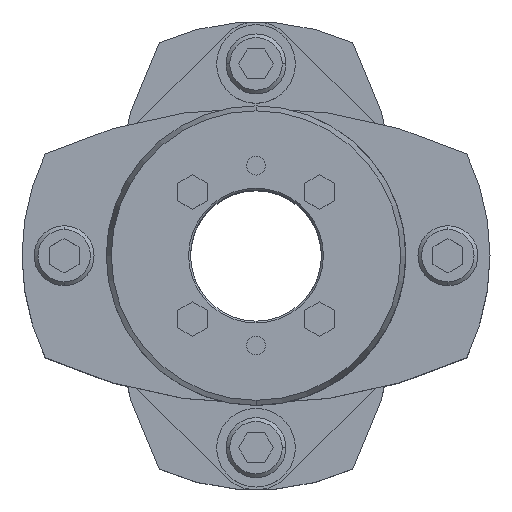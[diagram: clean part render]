
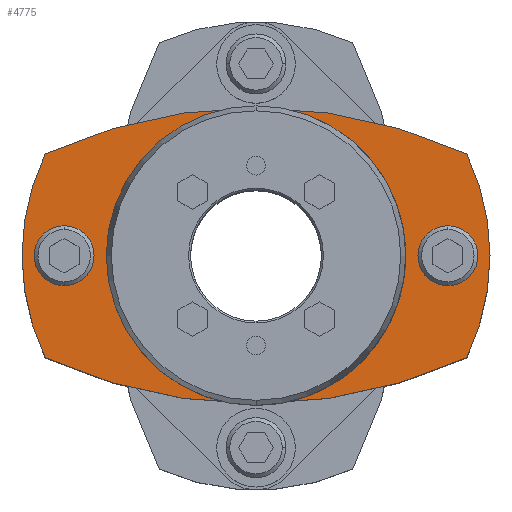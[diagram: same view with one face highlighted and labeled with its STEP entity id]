
A CAD part, top view. The second image highlights one B-rep face of the part: STEP entity #4775.
In plain terms, the highlighted planar face has unit normal (0, 0, 1).
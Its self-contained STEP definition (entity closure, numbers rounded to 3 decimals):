
#2207=CARTESIAN_POINT('',(0.,39.5,35.5));
#2208=VERTEX_POINT('',#2207);
#2224=CARTESIAN_POINT('',(-56.263,27.217,35.5));
#2225=VERTEX_POINT('',#2224);
#2232=CARTESIAN_POINT('',(0.,-95.5,35.5));
#2233=DIRECTION('',(0.0,0.0,-1.0));
#2234=DIRECTION('',(0.0,1.0,0.0));
#2235=AXIS2_PLACEMENT_3D('',#2232,#2233,#2234);
#2236=CIRCLE('',#2235,135.);
#2237=EDGE_CURVE('',#2225,#2208,#2236,.T.);
#2247=CARTESIAN_POINT('',(0.,-39.5,35.5));
#2248=VERTEX_POINT('',#2247);
#2257=CARTESIAN_POINT('',(-56.263,-27.217,35.5));
#2258=VERTEX_POINT('',#2257);
#2259=CARTESIAN_POINT('',(0.,95.5,35.5));
#2260=DIRECTION('',(0.0,0.0,-1.0));
#2261=DIRECTION('',(0.0,1.0,0.0));
#2262=AXIS2_PLACEMENT_3D('',#2259,#2260,#2261);
#2263=CIRCLE('',#2262,135.);
#2264=EDGE_CURVE('',#2248,#2258,#2263,.T.);
#2513=CARTESIAN_POINT('',(0.,29.,35.5));
#2514=VERTEX_POINT('',#2513);
#2564=CARTESIAN_POINT('',(0.,-29.,35.5));
#2565=VERTEX_POINT('',#2564);
#2572=CARTESIAN_POINT('',(0.,0.,35.5));
#2573=DIRECTION('',(0.0,0.0,-1.0));
#2574=DIRECTION('',(0.0,1.0,0.0));
#2575=AXIS2_PLACEMENT_3D('',#2572,#2573,#2574);
#2576=CIRCLE('',#2575,29.0);
#2577=EDGE_CURVE('',#2514,#2565,#2576,.T.);
#2673=CARTESIAN_POINT('',(-51.25,8.,35.5));
#2674=VERTEX_POINT('',#2673);
#2690=CARTESIAN_POINT('',(-51.25,-8.,35.5));
#2691=VERTEX_POINT('',#2690);
#2698=CARTESIAN_POINT('',(-51.25,0.,35.5));
#2699=DIRECTION('',(0.0,0.0,-1.0));
#2700=DIRECTION('',(0.0,1.0,0.0));
#2701=AXIS2_PLACEMENT_3D('',#2698,#2699,#2700);
#2702=CIRCLE('',#2701,8.0);
#2703=EDGE_CURVE('',#2674,#2691,#2702,.T.);
#2747=CARTESIAN_POINT('',(51.25,8.,35.5));
#2748=VERTEX_POINT('',#2747);
#2764=CARTESIAN_POINT('',(51.25,-8.,35.5));
#2765=VERTEX_POINT('',#2764);
#2772=CARTESIAN_POINT('',(51.25,0.,35.5));
#2773=DIRECTION('',(0.0,0.0,-1.0));
#2774=DIRECTION('',(0.0,1.0,0.0));
#2775=AXIS2_PLACEMENT_3D('',#2772,#2773,#2774);
#2776=CIRCLE('',#2775,8.0);
#2777=EDGE_CURVE('',#2748,#2765,#2776,.T.);
#3316=CARTESIAN_POINT('',(51.25,0.,35.5));
#3317=DIRECTION('',(0.0,0.0,-1.0));
#3318=DIRECTION('',(0.0,1.0,0.0));
#3319=AXIS2_PLACEMENT_3D('',#3316,#3317,#3318);
#3320=CIRCLE('',#3319,8.0);
#3321=EDGE_CURVE('',#2765,#2748,#3320,.T.);
#3376=CARTESIAN_POINT('',(-51.25,0.,35.5));
#3377=DIRECTION('',(0.0,0.0,-1.0));
#3378=DIRECTION('',(0.0,1.0,0.0));
#3379=AXIS2_PLACEMENT_3D('',#3376,#3377,#3378);
#3380=CIRCLE('',#3379,8.0);
#3381=EDGE_CURVE('',#2691,#2674,#3380,.T.);
#4448=CARTESIAN_POINT('',(0.,0.,35.5));
#4449=DIRECTION('',(0.0,0.0,-1.0));
#4450=DIRECTION('',(0.0,1.0,0.0));
#4451=AXIS2_PLACEMENT_3D('',#4448,#4449,#4450);
#4452=CIRCLE('',#4451,29.0);
#4453=EDGE_CURVE('',#2565,#2514,#4452,.T.);
#4669=CARTESIAN_POINT('',(56.263,27.217,35.5));
#4670=VERTEX_POINT('',#4669);
#4671=CARTESIAN_POINT('',(56.263,-27.217,35.5));
#4672=VERTEX_POINT('',#4671);
#4673=CARTESIAN_POINT('',(0.,0.,35.5));
#4674=DIRECTION('',(0.0,0.0,-1.0));
#4675=DIRECTION('',(0.0,1.0,0.0));
#4676=AXIS2_PLACEMENT_3D('',#4673,#4674,#4675);
#4677=CIRCLE('',#4676,62.5);
#4678=EDGE_CURVE('',#4670,#4672,#4677,.T.);
#4704=CARTESIAN_POINT('',(0.,95.5,35.5));
#4705=DIRECTION('',(0.0,0.0,-1.0));
#4706=DIRECTION('',(0.0,1.0,0.0));
#4707=AXIS2_PLACEMENT_3D('',#4704,#4705,#4706);
#4708=CIRCLE('',#4707,135.);
#4709=EDGE_CURVE('',#4672,#2248,#4708,.T.);
#4719=CARTESIAN_POINT('',(0.,0.,35.5));
#4720=DIRECTION('',(0.0,0.0,-1.0));
#4721=DIRECTION('',(0.0,1.0,0.0));
#4722=AXIS2_PLACEMENT_3D('',#4719,#4720,#4721);
#4723=CIRCLE('',#4722,62.5);
#4724=EDGE_CURVE('',#2258,#2225,#4723,.T.);
#4738=CARTESIAN_POINT('',(0.,-95.5,35.5));
#4739=DIRECTION('',(0.0,0.0,-1.0));
#4740=DIRECTION('',(0.0,1.0,0.0));
#4741=AXIS2_PLACEMENT_3D('',#4738,#4739,#4740);
#4742=CIRCLE('',#4741,135.);
#4743=EDGE_CURVE('',#2208,#4670,#4742,.T.);
#4750=CARTESIAN_POINT('',(0.,0.,35.5));
#4751=DIRECTION('',(0.0,0.0,1.0));
#4752=DIRECTION('',(0.0,1.0,0.0));
#4753=AXIS2_PLACEMENT_3D('',#4750,#4751,#4752);
#4754=PLANE('',#4753);
#4755=ORIENTED_EDGE('',*,*,#4678,.F.);
#4756=ORIENTED_EDGE('',*,*,#4743,.F.);
#4757=ORIENTED_EDGE('',*,*,#2237,.F.);
#4758=ORIENTED_EDGE('',*,*,#4724,.F.);
#4759=ORIENTED_EDGE('',*,*,#2264,.F.);
#4760=ORIENTED_EDGE('',*,*,#4709,.F.);
#4761=EDGE_LOOP('',(#4755,#4756,#4757,#4758,#4759,#4760));
#4762=FACE_OUTER_BOUND('',#4761,.T.);
#4763=ORIENTED_EDGE('',*,*,#2777,.T.);
#4764=ORIENTED_EDGE('',*,*,#3321,.T.);
#4765=EDGE_LOOP('',(#4763,#4764));
#4766=FACE_BOUND('',#4765,.T.);
#4767=ORIENTED_EDGE('',*,*,#2703,.T.);
#4768=ORIENTED_EDGE('',*,*,#3381,.T.);
#4769=EDGE_LOOP('',(#4767,#4768));
#4770=FACE_BOUND('',#4769,.T.);
#4771=ORIENTED_EDGE('',*,*,#2577,.T.);
#4772=ORIENTED_EDGE('',*,*,#4453,.T.);
#4773=EDGE_LOOP('',(#4771,#4772));
#4774=FACE_BOUND('',#4773,.T.);
#4775=ADVANCED_FACE('',(#4762,#4766,#4770,#4774),#4754,.T.);
